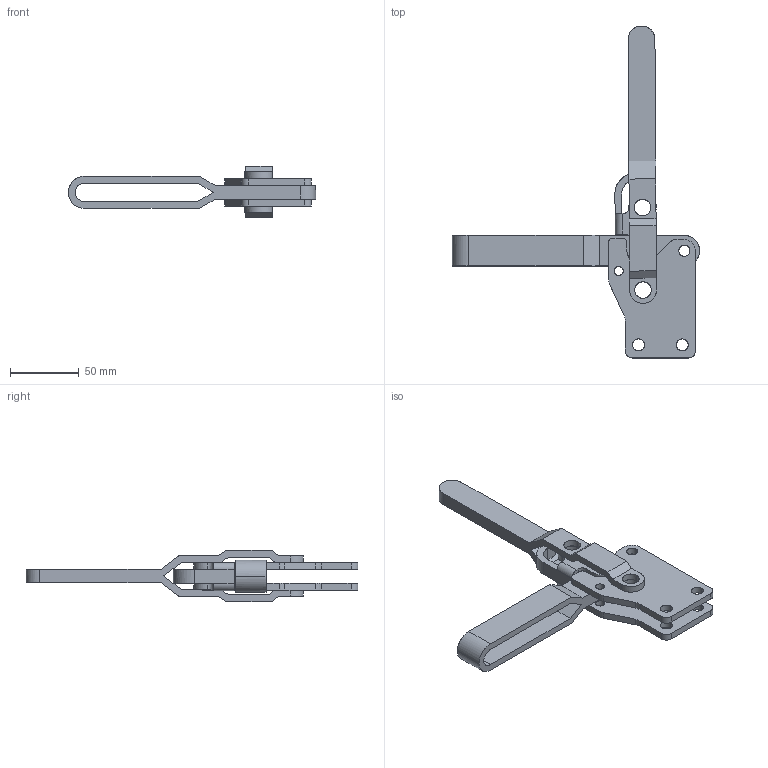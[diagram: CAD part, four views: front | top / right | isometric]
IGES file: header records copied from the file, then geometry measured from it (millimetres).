
Start section: Comment
Global section: file name: 10248.igs; native system:  By Spatial Corp.; preprocessor: XPlus PS/IGES 3.0; author: Author; organization: Title; date: 20050216.164040; units: inch
Bounding box: 179.65 x 241.29 x 37.5 mm (x, y, z)
Surface area: 61096 mm2 (no closed solid volume)
Topology: 0 solids, 0 shells, 164 faces, 924 edges, 924 vertices
Faces by surface type: revolution 87, extrusion 77
